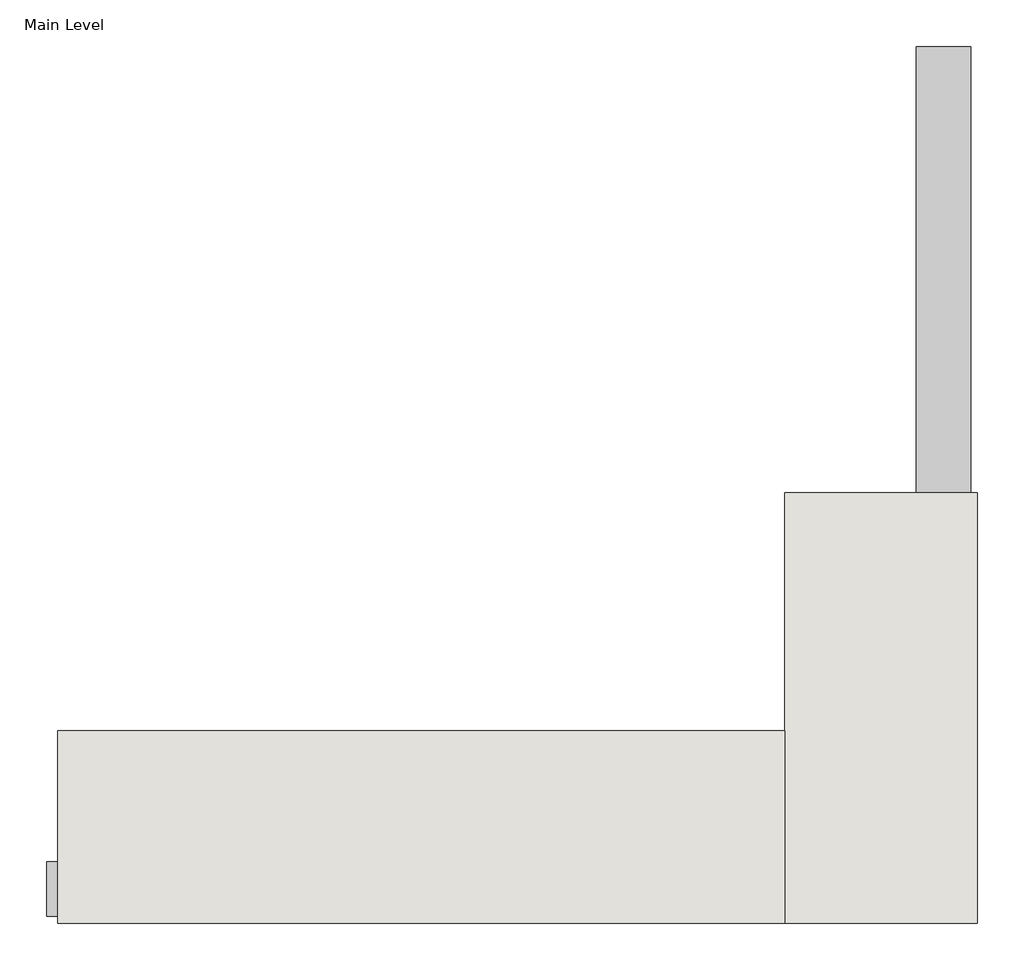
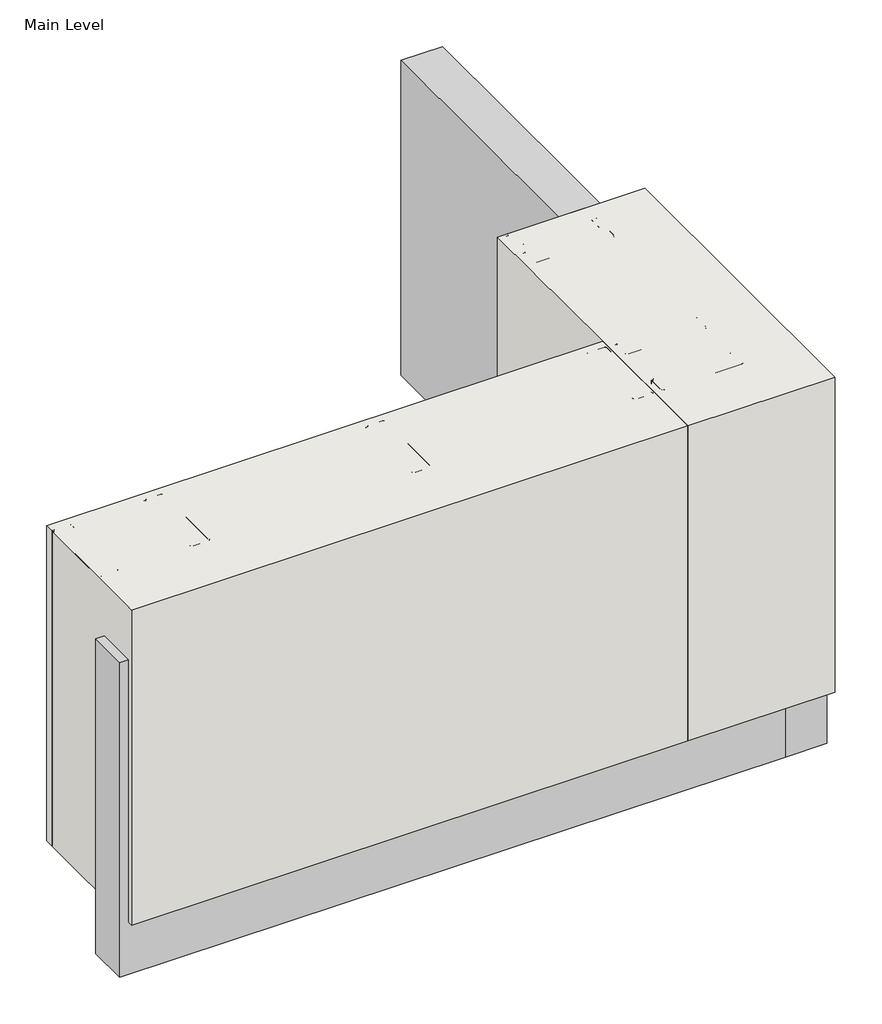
# One storey, incomplete: 13 proxies, 2 walls.
"""IFC4 building model written with IfcOpenShell, lengths in millimetres."""

from ifc_helpers import new_model, si_unit, origin, origin_with_axes, place, context, project, spatial, polyline, outline, extrude, faceted_brep, transform, mapped, element, save
from components import generic_models_03ec6e0e, generic_models_b823fbf1, generic_models_259c97a0, proxy_81afb05a, proxy_63d6b373, proxy_d4c17246

model = new_model("IFC4")

# Units and contexts
model_context = context("Model", 3, world=origin())
ifc_project = project(units=[si_unit("LENGTHUNIT", "METRE", prefix="MILLI")], contexts=[model_context])

# Site, building, storey
site = spatial("IfcSite", under=ifc_project)
building = spatial("IfcBuilding", under=site)
storey = spatial("IfcBuildingStorey", under=building, Name="Main Level", Elevation=0.0)

# Proxies
placement = place(None, origin())
generic_models_shape = generic_models_03ec6e0e(model_context)
element("IfcBuildingElementProxy", 1, Name="CRAi Generic Model Drywall Screw : CRAi Generic Model Drywall Screw", ObjectType="CRAi Generic Model Drywall Screw : CRAi Generic Model Drywall Screw", at=placement, inside=storey, context=model_context, shape_type="MappedRepresentation", body=[
    mapped(generic_models_shape, transform((27215.4539273, 633.9816297, 584.2), x_axis=(1.0, 0.0, 0.0), y_axis=(0.0, 0.0, 1.0), z_axis=(0.0, -1.0, 0.0))),
])
element("IfcBuildingElementProxy", 2, Name="CRAi Generic Model Drywall Screw : CRAi Generic Model Drywall Screw", ObjectType="CRAi Generic Model Drywall Screw : CRAi Generic Model Drywall Screw", at=placement, inside=storey, context=model_context, shape_type="MappedRepresentation", body=[
    mapped(generic_models_shape, transform((27415.4789273, 1075.3066297, 584.2), x_axis=(0.0, 1.0, 0.0), y_axis=(0.0, 0.0, 1.0), z_axis=(1.0, 0.0, 0.0))),
])
element("IfcBuildingElementProxy", 3, Name="CRAi Generic Model Drywall Screw : CRAi Generic Model Drywall Screw", ObjectType="CRAi Generic Model Drywall Screw : CRAi Generic Model Drywall Screw", at=placement, inside=storey, context=model_context, shape_type="MappedRepresentation", body=[
    mapped(generic_models_shape, transform((27415.4789273, 783.2066297, 584.2), x_axis=(0.0, 1.0, 0.0), y_axis=(0.0, 0.0, 1.0), z_axis=(1.0, 0.0, 0.0))),
])
element("IfcBuildingElementProxy", 4, Name="CRAi Generic Model Drywall Screw : CRAi Generic Model Drywall Screw", ObjectType="CRAi Generic Model Drywall Screw : CRAi Generic Model Drywall Screw", at=placement, inside=storey, context=model_context, shape_type="MappedRepresentation", body=[
    mapped(generic_models_shape, transform((27415.4789273, 675.2566297, 584.2), x_axis=(0.0, 1.0, 0.0), y_axis=(0.0, 0.0, 1.0), z_axis=(1.0, 0.0, 0.0))),
])
element("IfcBuildingElementProxy", 5, Name="CRAi Generic Model Drywall Screw : CRAi Generic Model Drywall Screw", ObjectType="CRAi Generic Model Drywall Screw : CRAi Generic Model Drywall Screw", at=placement, inside=storey, context=model_context, shape_type="MappedRepresentation", body=[
    mapped(generic_models_shape, transform((27380.5539273, 633.9816297, 584.2), x_axis=(1.0, 0.0, 0.0), y_axis=(0.0, 0.0, 1.0), z_axis=(0.0, -1.0, 0.0))),
])
element("IfcBuildingElementProxy", 6, Name="CRAi Generic Model Drywall Screw : CRAi Generic Model Drywall Screw", ObjectType="CRAi Generic Model Drywall Screw : CRAi Generic Model Drywall Screw", at=placement, inside=storey, context=model_context, shape_type="MappedRepresentation", body=[
    mapped(generic_models_shape, transform((26809.0539273, 633.9816297, 584.2), x_axis=(1.0, 0.0, 0.0), y_axis=(0.0, 0.0, 1.0), z_axis=(0.0, -1.0, 0.0))),
])
element("IfcBuildingElementProxy", 7, Name="CRAi Generic Model Drywall Screw : CRAi Generic Model Drywall Screw", ObjectType="CRAi Generic Model Drywall Screw : CRAi Generic Model Drywall Screw", at=placement, inside=storey, context=model_context, shape_type="MappedRepresentation", body=[
    mapped(generic_models_shape, transform((26402.6539273, 633.9816297, 584.2), x_axis=(1.0, 0.0, 0.0), y_axis=(0.0, 0.0, 1.0), z_axis=(0.0, -1.0, 0.0))),
])
generic_models_2_shape = generic_models_b823fbf1(model_context)
element("IfcBuildingElementProxy", 8, Name="Durabond Generic Model Metal Stud Array Right : CRAi Generic Model Metal Stud Array", ObjectType="Durabond Generic Model Metal Stud Array Right : CRAi Generic Model Metal Stud Array", at=placement, inside=storey, context=model_context, shape_type="MappedRepresentation", body=[
    mapped(generic_models_2_shape, transform((24765.9289273, 726.0566297, 0.0), x_axis=(1.0, 0.0, 0.0), y_axis=(0.0, 1.0, 0.0), z_axis=(0.0, 0.0, 1.0))),
])
generic_models_3_shape = generic_models_259c97a0(model_context)
element("IfcBuildingElementProxy", 9, Name="Durabond Generic Model Metal Stud Array Right : CRAi Generic Model Metal Stud Array", ObjectType="Durabond Generic Model Metal Stud Array Right : CRAi Generic Model Metal Stud Array", at=placement, inside=storey, context=model_context, shape_type="MappedRepresentation", body=[
    mapped(generic_models_3_shape, transform((27323.4039273, 3118.4316297, 0.0), x_axis=(0.0, -1.0, 0.0), y_axis=(1.0, 0.0, 0.0), z_axis=(0.0, 0.0, 1.0))),
])
proxy_shape = proxy_81afb05a(model_context)
element("IfcBuildingElementProxy", 10, Name="Durabond Generic Model Equalite Insulation Board : 3\"", ObjectType="Durabond Generic Model Equalite Insulation Board : 3\"", at=placement, inside=storey, context=model_context, shape_type="MappedRepresentation", body=[
    mapped(proxy_shape, transform((26809.0539273, 630.8066297, 203.2), x_axis=(1.0, 0.0, 0.0), y_axis=(0.0, 0.0, 1.0), z_axis=(0.0, -1.0, 0.0))),
])
element("IfcBuildingElementProxy", 11, Name="Durabond Generic Model Equalite Insulation Board : 3\"", ObjectType="Durabond Generic Model Equalite Insulation Board : 3\"", at=placement, inside=storey, context=model_context, shape_type="MappedRepresentation", body=[
    mapped(proxy_shape, transform((27418.6539273, 1164.2066297, 203.2), x_axis=(0.0, 1.0, 0.0), y_axis=(0.0, 0.0, 1.0), z_axis=(1.0, 0.0, 0.0))),
])
proxy_2_shape = proxy_63d6b373(model_context)
element("IfcBuildingElementProxy", 12, Name="Durabond Generic Model Corner 90 Membrane : 4\" Barrier Seam Tape", ObjectType="Durabond Generic Model Corner 90 Membrane : 4\" Barrier Seam Tape", at=placement, inside=storey, context=model_context, shape_type="MappedRepresentation", body=[
    mapped(proxy_2_shape, transform((27415.4789273, 633.9816297, 0.0), x_axis=(1.0, 0.0, 0.0), y_axis=(0.0, 1.0, 0.0), z_axis=(0.0, 0.0, 1.0))),
])
proxy_3_shape = proxy_d4c17246(model_context)
element("IfcBuildingElementProxy", 13, Name="CRAi Generic Model Metal Stud : Metal Framing Stud - 1\" x 3.5\"", ObjectType="CRAi Generic Model Metal Stud : Metal Framing Stud - 1\" x 3.5\"", at=placement, inside=storey, context=model_context, shape_type="MappedRepresentation", body=[
    mapped(proxy_3_shape, transform((27323.4039273, 783.2066297, 0.0), x_axis=(0.0, 1.0, 0.0), y_axis=(-1.0, 0.0, 0.0), z_axis=(0.0, 0.0, 1.0))),
])

# Walls
element("IfcWall", 14, ObjectType="(No adhesive) 189mm (7.5”) EIFS Field Applied on Mtl. Stud Layer - 50mm Grooved Insulation Board Metal Stud Wall(AirStop", at=placement, inside=storey, context=model_context, shape_type="SweptSolid", body=[
    extrude(outline(polyline([(27234.5039273, 545.0816297), (26215.3289273, 545.0816297), (26215.3289273, 814.9566297), (27234.5039273, 814.9566297), (27234.5039273, 545.0816297)])), origin_with_axes(), (0.0, 0.0, 1.0), 609.6),
])
element("IfcWall", 15, ObjectType="(No adhesive) 189mm (7.5”) EIFS Field Applied on Mtl. Stud Layer - 50mm Grooved Insulation Board Metal Stud Wall(AirStop", at=placement, inside=storey, context=model_context, shape_type="Brep", body=[
    faceted_brep([(27504.3789273, 545.0816297, 0.0), (27504.3789273, 1148.3316297, 0.0), (27504.3789273, 1148.3316297, 609.6), (27504.3789273, 545.0816297, 609.6), (27234.5039273, 545.0816297, 0.0), (27234.5039273, 545.0816297, 609.6), (27234.5039273, 814.9566297, 609.6), (27234.5039273, 1148.3316297, 609.6), (27234.5039273, 1148.3316297, 0.0), (27234.5039273, 814.9566297, 0.0)], [[[0, 1, 2, 3]], [[4, 5, 6, 7, 8, 9]], [[1, 0, 4, 9, 8]], [[2, 1, 8, 7]], [[3, 2, 7, 6, 5]], [[0, 3, 5, 4]]]),
])

save(model, "model.ifc")
